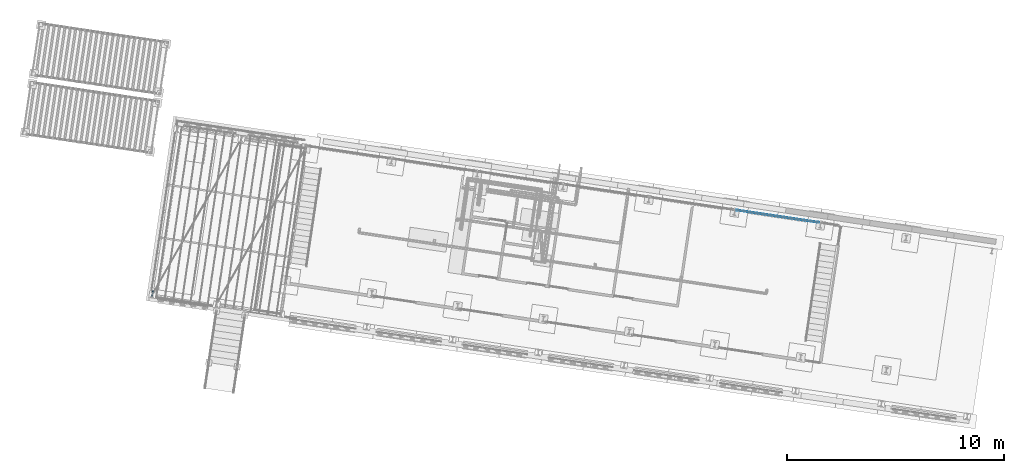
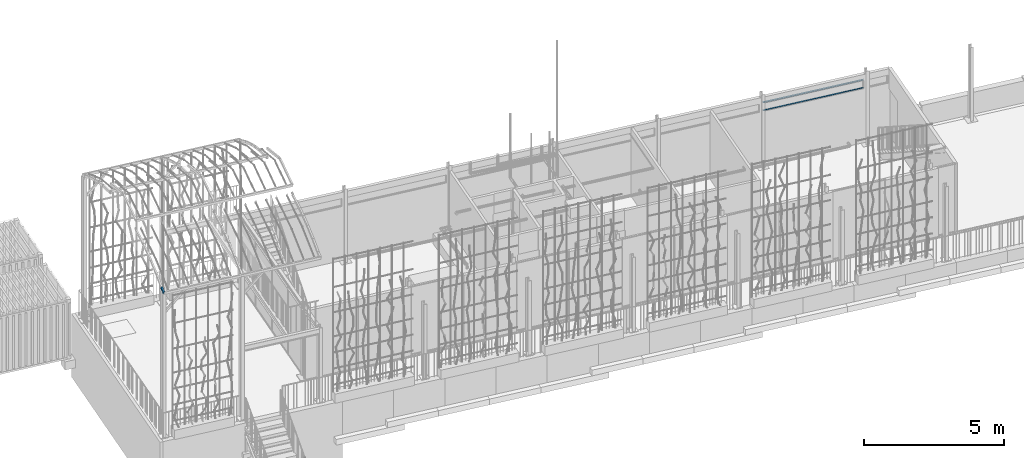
# One storey, part 101 of 142: 3 members, 1 element without a shape of its own.
"""IFC4 building model written with IfcOpenShell, lengths in metres."""

from ifc_helpers import new_model, si_unit, direction, frame, origin_with_axes, place, context, subcontext, project, spatial, rectangle, hollow_rectangle, extrude, material, material_profile, profile_set, profile_usage, type_object, element, aggregate, save


model = new_model("IFC4")

# Units and contexts
model_context = context("Model", 3, precision=1e-05, world=origin_with_axes(), true_north=direction((0.0, 1.0)))
body_context = subcontext(model_context, "Body", "Model", "MODEL_VIEW")
ifc_project = project(units=[si_unit("VOLUMEUNIT", "CUBIC_METRE"), si_unit("LENGTHUNIT", "METRE"), si_unit("AREAUNIT", "SQUARE_METRE")], contexts=[model_context])

# Site, building, storey
site_placement = place(None, origin_with_axes())
site = spatial("IfcSite", under=ifc_project, at=site_placement, Name="Lares · Rua das Mercês · artigo 4771")
building_placement = place(site_placement, frame((12.0, 10.2, 13.9), z_axis=(0.0, 0.0, 1.0), x_axis=(0.989015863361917, -0.147809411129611, 0.0)))
building = spatial("IfcBuilding", under=site, at=building_placement, Name="Casa Sobreposta")
storey_placement = place(building_placement, origin_with_axes())
storey = spatial("IfcBuildingStorey", under=building, at=storey_placement, Name="00 · Habitação e estacionamento", Elevation=13.9)

# Members
ifc_material = material(Name="Aço pintado / Stahl lackiert", Category="steel")
ifc_material_profile_1 = material_profile(ifc_material, rectangle(XDim=0.035, YDim=0.035))
ifc_profile_set_1 = profile_set([ifc_material_profile_1], Name="R0.035")
ifc_profile_usage_1 = profile_usage(ifc_profile_set_1)
member_type_1 = type_object("IfcMemberType", Name="R0.035 / steel", PredefinedType="NOTDEFINED", material=ifc_profile_set_1)
member_1_placement = place(storey_placement, frame((20.08, 6.4, 2.35), z_axis=(1.0, 0.0, 0.0), x_axis=(0.0, -1.0, 0.0)))
element("IfcMember", 1, at=member_1_placement, inside=storey, type_object=member_type_1, material=ifc_profile_usage_1, Name="Rasgo norte 6 · travessa", context=body_context, shape_type="SweptSolid", body=[
    extrude(rectangle(XDim=0.035, YDim=0.035), origin_with_axes(), (0.0, 0.0, 1.0), 3.84),
])
ifc_profile_usage_2 = profile_usage(ifc_profile_set_1)
member_2_placement = place(storey_placement, frame((20.08, 6.4, 2.7), z_axis=(1.0, 0.0, 0.0), x_axis=(0.0, -1.0, 0.0)))
element("IfcMember", 2, at=member_2_placement, inside=storey, type_object=member_type_1, material=ifc_profile_usage_2, Name="Rasgo norte 6 · travessa", context=body_context, shape_type="SweptSolid", body=[
    extrude(rectangle(XDim=0.035, YDim=0.035), origin_with_axes(), (0.0, 0.0, 1.0), 3.84),
])

# Assembly, member
assembly_placement = place(storey_placement, origin_with_axes())
assembly = element("IfcElementAssembly", 3, at=assembly_placement, inside=storey, Name="Pérgola · prolongamento da estufa 6 m", ObjectType="PERGOLA_GREENHOUSE_EXTENSION", PredefinedType="USERDEFINED")
ifc_material_profile_2 = material_profile(ifc_material, hollow_rectangle(XDim=0.06, YDim=0.1, WallThickness=0.004))
ifc_profile_set_2 = profile_set([ifc_material_profile_2], Name="RHS100x60x4")
ifc_profile_usage_3 = profile_usage(ifc_profile_set_2)
member_type_2 = type_object("IfcMemberType", Name="RHS100x60x4 / steel", PredefinedType="NOTDEFINED", material=ifc_profile_set_2)
member_3_placement = place(assembly_placement, frame((-6.0, -1.5, 6.23430000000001), z_axis=(0.0, 0.932991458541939, 0.35989851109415), x_axis=(1.0, 0.0, 0.0)))
member_3 = element("IfcMember", 4, at=member_3_placement, type_object=member_type_2, material=ifc_profile_usage_3, Name="Pérgola · arco contínuo com a estufa", context=body_context, shape_type="SweptSolid", body=[
    extrude(hollow_rectangle(XDim=0.06, YDim=0.1, WallThickness=0.004), origin_with_axes(), (0.0, 0.0, 1.0), 0.249032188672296),
])
aggregate(assembly, [member_3])

save(model, "model.ifc")
